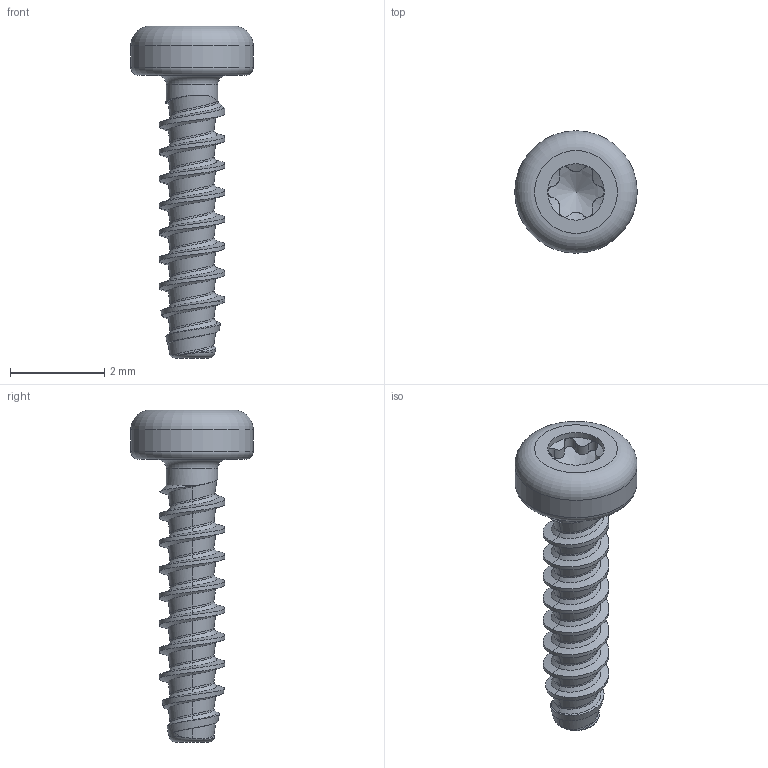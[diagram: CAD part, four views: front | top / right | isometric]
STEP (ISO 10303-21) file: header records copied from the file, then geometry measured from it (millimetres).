
FILE_DESCRIPTION(/* description */ (''),/* implementation_level */ '2;1');
FILE_NAME(/* name */ 'KN6039-STSplus-14x6.0-T3.step',/* time_stamp */ '2017-10-11T10:38:04+02:00',/* author */ (''),/* organization */ (''),/* preprocessor_version */ 'ST-DEVELOPER v16',/* originating_system */ 'SIEMENS PLM Software NX 10.0',/* authorisation */ '');
FILE_SCHEMA (('AUTOMOTIVE_DESIGN { 1 0 10303 214 3 1 1 1 }'));
Length unit declared in the file: millimetre
Products named in the file (1): KN6039-STSplus-14x6.0-T3
Bounding box: 2.6 x 2.6 x 7.05 mm (x, y, z)
Volume: 10.3 mm3; surface area: 47.5 mm2
Topology: 1 solids, 1 shells, 77 faces, 193 edges, 119 vertices
Faces by surface type: bspline 43, cylinder 17, cone 9, torus 4, plane 4
Full cylindrical faces by diameter (mm): 1.09 x1, 1.2 x1, 2.6 x1
Entity records: 5273 total; most frequent: CARTESIAN_POINT 3815, ORIENTED_EDGE 362, EDGE_CURVE 181, DIRECTION 158, VERTEX_POINT 116, B_SPLINE_CURVE_WITH_KNOTS 112, EDGE_LOOP 86, ADVANCED_FACE 77
